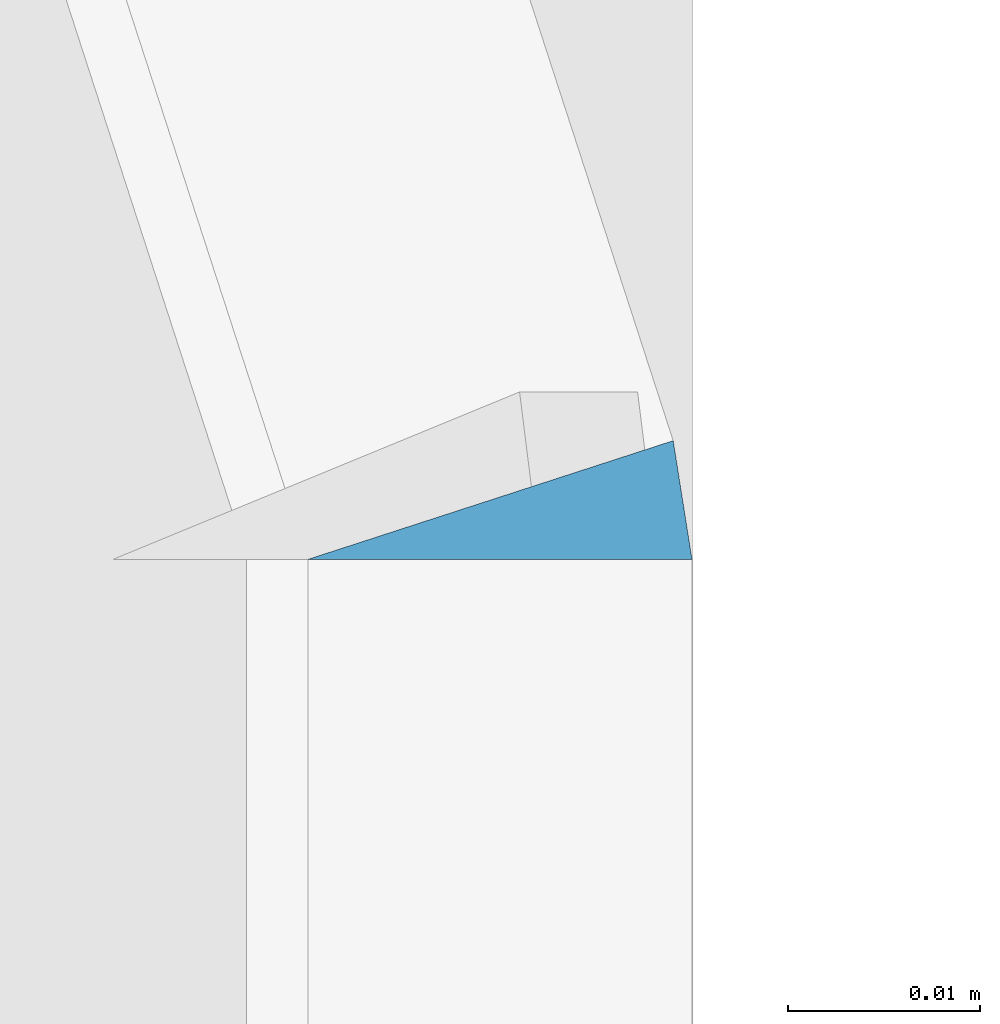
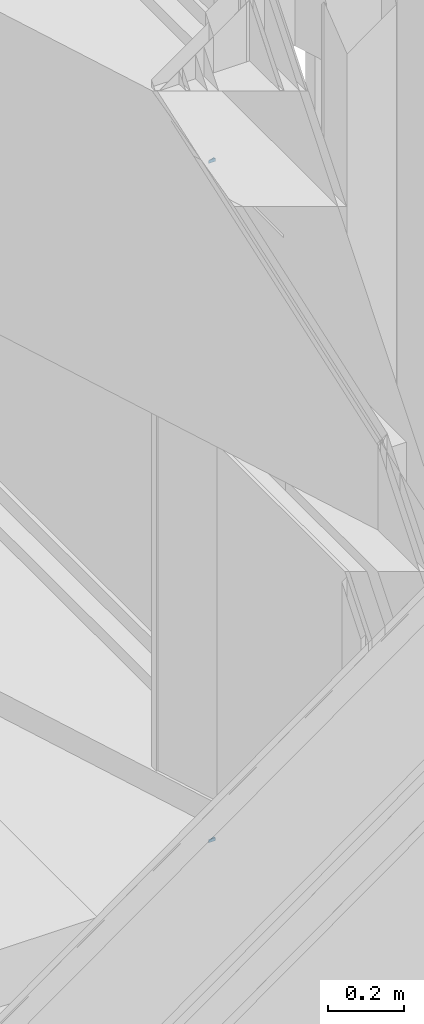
# One storey, part 363 of 583: 2 slabs.
"""IFC2X3 building model written with IfcOpenShell, lengths in metres."""

from ifc_helpers import new_model, entity, si_unit, converted_unit, derived_unit, money_unit, direction, frame, origin_with_axes, place, context, subcontext, project, spatial, faceted_brep, material, type_object, element, save


model = new_model("IFC2X3")

# Units and contexts
model_context = context("Model", 3, precision=1e-05, world=origin_with_axes(), true_north=direction((0.0, 1.0)))
body_context = subcontext(model_context, "Body", "Model", "MODEL_VIEW", scale=1.0)
ifc_project = project(units=[si_unit("LENGTHUNIT", "METRE"), si_unit("AREAUNIT", "SQUARE_METRE"), si_unit("VOLUMEUNIT", "CUBIC_METRE"), si_unit("ABSORBEDDOSEUNIT", "GRAY"), si_unit("AMOUNTOFSUBSTANCEUNIT", "MOLE"), si_unit("DOSEEQUIVALENTUNIT", "SIEVERT"), si_unit("ELECTRICCAPACITANCEUNIT", "FARAD"), si_unit("ELECTRICCHARGEUNIT", "COULOMB"), si_unit("ELECTRICCONDUCTANCEUNIT", "SIEMENS"), si_unit("ELECTRICCURRENTUNIT", "AMPERE"), si_unit("ELECTRICRESISTANCEUNIT", "OHM"), si_unit("ELECTRICVOLTAGEUNIT", "VOLT"), si_unit("ENERGYUNIT", "JOULE"), si_unit("FORCEUNIT", "NEWTON"), si_unit("FREQUENCYUNIT", "HERTZ"), si_unit("ILLUMINANCEUNIT", "LUX"), si_unit("INDUCTANCEUNIT", "HENRY"), si_unit("LUMINOUSFLUXUNIT", "LUMEN"), si_unit("LUMINOUSINTENSITYUNIT", "CANDELA"), si_unit("MAGNETICFLUXDENSITYUNIT", "TESLA"), si_unit("MAGNETICFLUXUNIT", "WEBER"), si_unit("MASSUNIT", "GRAM"), converted_unit("PLANEANGLEUNIT", "degree", entity("IfcReal", 0.0174532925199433), si_unit("PLANEANGLEUNIT", "RADIAN"), dimensions=[0, 0, 0, 0, 0, 0, 0]), si_unit("POWERUNIT", "WATT"), si_unit("PRESSUREUNIT", "PASCAL"), si_unit("RADIOACTIVITYUNIT", "BECQUEREL"), si_unit("SOLIDANGLEUNIT", "STERADIAN"), si_unit("THERMODYNAMICTEMPERATUREUNIT", "KELVIN"), si_unit("TIMEUNIT", "SECOND"), derived_unit("ACCELERATIONUNIT", [(si_unit("LENGTHUNIT", "METRE"), 1), (si_unit("TIMEUNIT", "SECOND"), -2)]), derived_unit("ANGULARVELOCITYUNIT", [(converted_unit("PLANEANGLEUNIT", "degree", entity("IfcReal", 0.0174532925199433), si_unit("PLANEANGLEUNIT", "RADIAN"), dimensions=[0, 0, 0, 0, 0, 0, 0]), 1), (si_unit("TIMEUNIT", "SECOND"), -1)]), derived_unit("CURVATUREUNIT", [(converted_unit("PLANEANGLEUNIT", "degree", entity("IfcReal", 0.0174532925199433), si_unit("PLANEANGLEUNIT", "RADIAN"), dimensions=[0, 0, 0, 0, 0, 0, 0]), 1), (si_unit("LENGTHUNIT", "METRE"), -1)]), derived_unit("DYNAMICVISCOSITYUNIT", [(si_unit("PRESSUREUNIT", "PASCAL"), 1), (si_unit("TIMEUNIT", "SECOND"), 1)]), derived_unit("HEATFLUXDENSITYUNIT", [(si_unit("POWERUNIT", "WATT"), 1), (si_unit("LENGTHUNIT", "METRE"), -2)]), derived_unit("HEATINGVALUEUNIT", [(si_unit("ENERGYUNIT", "JOULE"), 1), (si_unit("MASSUNIT", "GRAM"), -1)]), derived_unit("INTEGERCOUNTRATEUNIT", [(si_unit("TIMEUNIT", "SECOND"), -1)]), derived_unit("IONCONCENTRATIONUNIT", [(si_unit("MASSUNIT", "GRAM"), 1), (si_unit("VOLUMEUNIT", "CUBIC_METRE"), -1)]), derived_unit("ISOTHERMALMOISTURECAPACITYUNIT", [(si_unit("VOLUMEUNIT", "CUBIC_METRE"), 1), (si_unit("MASSUNIT", "GRAM"), -1)]), derived_unit("KINEMATICVISCOSITYUNIT", [(si_unit("AREAUNIT", "SQUARE_METRE"), 1), (si_unit("TIMEUNIT", "SECOND"), -1)]), derived_unit("LINEARFORCEUNIT", [(si_unit("FORCEUNIT", "NEWTON"), 1), (si_unit("LENGTHUNIT", "METRE"), -1)]), derived_unit("LINEARMOMENTUNIT", [(si_unit("FORCEUNIT", "NEWTON"), 1), (si_unit("LENGTHUNIT", "METRE"), -1)]), derived_unit("LINEARSTIFFNESSUNIT", [(si_unit("FORCEUNIT", "NEWTON"), 1), (si_unit("LENGTHUNIT", "METRE"), -1)]), derived_unit("LINEARVELOCITYUNIT", [(si_unit("LENGTHUNIT", "METRE"), 1), (si_unit("TIMEUNIT", "SECOND"), -1)]), derived_unit("LUMINOUSINTENSITYDISTRIBUTIONUNIT", [(si_unit("LUMINOUSINTENSITYUNIT", "CANDELA"), 1), (si_unit("LUMINOUSFLUXUNIT", "LUMEN"), -1)]), derived_unit("MASSDENSITYUNIT", [(si_unit("MASSUNIT", "GRAM"), 1), (si_unit("VOLUMEUNIT", "CUBIC_METRE"), -1)]), derived_unit("MASSFLOWRATEUNIT", [(si_unit("MASSUNIT", "GRAM"), 1), (si_unit("TIMEUNIT", "SECOND"), -1)]), derived_unit("MASSPERLENGTHUNIT", [(si_unit("MASSUNIT", "GRAM"), 1), (si_unit("LENGTHUNIT", "METRE"), -1)]), derived_unit("MODULUSOFELASTICITYUNIT", [(si_unit("FORCEUNIT", "NEWTON"), 1), (si_unit("AREAUNIT", "SQUARE_METRE"), -1)]), derived_unit("MODULUSOFLINEARSUBGRADEREACTIONUNIT", [(si_unit("FORCEUNIT", "NEWTON"), 1), (si_unit("LENGTHUNIT", "METRE"), -2)]), derived_unit("MODULUSOFROTATIONALSUBGRADEREACTIONUNIT", [(si_unit("FORCEUNIT", "NEWTON"), 1), (si_unit("LENGTHUNIT", "METRE"), 1)]), derived_unit("MODULUSOFSUBGRADEREACTIONUNIT", [(si_unit("FORCEUNIT", "NEWTON"), 1), (si_unit("VOLUMEUNIT", "CUBIC_METRE"), -1)]), derived_unit("MOISTUREDIFFUSIVITYUNIT", [(si_unit("VOLUMEUNIT", "CUBIC_METRE"), 1), (si_unit("TIMEUNIT", "SECOND"), -1)]), derived_unit("MOLECULARWEIGHTUNIT", [(si_unit("MASSUNIT", "GRAM"), 1), (si_unit("AMOUNTOFSUBSTANCEUNIT", "MOLE"), -1)]), derived_unit("PLANARFORCEUNIT", [(si_unit("FORCEUNIT", "NEWTON"), 1), (si_unit("LENGTHUNIT", "METRE"), -2)]), derived_unit("ROTATIONALFREQUENCYUNIT", [(si_unit("TIMEUNIT", "SECOND"), -1)]), derived_unit("ROTATIONALMASSUNIT", [(si_unit("MASSUNIT", "GRAM"), 1), (si_unit("LENGTHUNIT", "METRE"), 2)]), derived_unit("ROTATIONALSTIFFNESSUNIT", [(si_unit("FORCEUNIT", "NEWTON"), 1), (si_unit("LENGTHUNIT", "METRE"), 1), (converted_unit("PLANEANGLEUNIT", "degree", entity("IfcReal", 0.0174532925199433), si_unit("PLANEANGLEUNIT", "RADIAN"), dimensions=[0, 0, 0, 0, 0, 0, 0]), -1)]), derived_unit("SECTIONAREAINTEGRALUNIT", [(si_unit("LENGTHUNIT", "METRE"), 5)]), derived_unit("SECTIONMODULUSUNIT", [(si_unit("LENGTHUNIT", "METRE"), 3)]), derived_unit("SHEARMODULUSUNIT", [(si_unit("FORCEUNIT", "NEWTON"), 1), (si_unit("AREAUNIT", "SQUARE_METRE"), -1)]), derived_unit("SOUNDPOWERUNIT", [(si_unit("ENERGYUNIT", "JOULE"), 1), (si_unit("TIMEUNIT", "SECOND"), -1)]), derived_unit("SPECIFICHEATCAPACITYUNIT", [(si_unit("FORCEUNIT", "NEWTON"), 1), (si_unit("MASSUNIT", "GRAM"), -1), (si_unit("THERMODYNAMICTEMPERATUREUNIT", "KELVIN"), -1)]), derived_unit("TEMPERATUREGRADIENTUNIT", [(si_unit("THERMODYNAMICTEMPERATUREUNIT", "KELVIN"), 1), (si_unit("LENGTHUNIT", "METRE"), -1)]), derived_unit("THERMALADMITTANCEUNIT", [(si_unit("POWERUNIT", "WATT"), 1), (si_unit("AREAUNIT", "SQUARE_METRE"), -1), (si_unit("THERMODYNAMICTEMPERATUREUNIT", "KELVIN"), -1)]), derived_unit("THERMALCONDUCTANCEUNIT", [(si_unit("POWERUNIT", "WATT"), 1), (si_unit("LENGTHUNIT", "METRE"), -1), (si_unit("THERMODYNAMICTEMPERATUREUNIT", "KELVIN"), -1)]), derived_unit("THERMALEXPANSIONCOEFFICIENTUNIT", [(si_unit("THERMODYNAMICTEMPERATUREUNIT", "KELVIN"), -1)]), derived_unit("THERMALRESISTANCEUNIT", [(si_unit("AREAUNIT", "SQUARE_METRE"), 1), (si_unit("POWERUNIT", "WATT"), -1)]), derived_unit("THERMALTRANSMITTANCEUNIT", [(si_unit("POWERUNIT", "WATT"), 1), (si_unit("AREAUNIT", "SQUARE_METRE"), -1), (si_unit("THERMODYNAMICTEMPERATUREUNIT", "KELVIN"), -1)]), derived_unit("TORQUEUNIT", [(si_unit("FORCEUNIT", "NEWTON"), 1), (si_unit("LENGTHUNIT", "METRE"), 1)]), derived_unit("VAPORPERMEABILITYUNIT", [(si_unit("MASSUNIT", "GRAM"), 1), (si_unit("TIMEUNIT", "SECOND"), -1)]), derived_unit("VOLUMETRICFLOWRATEUNIT", [(si_unit("VOLUMEUNIT", "CUBIC_METRE"), 1), (si_unit("TIMEUNIT", "SECOND"), -1)]), derived_unit("WARPINGCONSTANTUNIT", [(si_unit("LENGTHUNIT", "METRE"), 6)]), derived_unit("WARPINGMOMENTUNIT", [(si_unit("FORCEUNIT", "NEWTON"), 1), (si_unit("LENGTHUNIT", "METRE"), 2)]), money_unit("GBP")], contexts=[model_context])

# Site, building, storey
site_placement = place(None, origin_with_axes())
site = spatial("IfcSite", under=ifc_project, at=site_placement, Name="Site", CompositionType="ELEMENT")
building_placement = place(site_placement, origin_with_axes())
building = spatial("IfcBuilding", under=site, at=building_placement, Name="Building01", CompositionType="ELEMENT")
storey_placement = place(building_placement, frame((0.0, 0.0, 20.78), z_axis=(0.0, 0.0, 1.0), x_axis=(1.0, 0.0, 0.0)))
storey = spatial("IfcBuildingStorey", under=building, at=storey_placement, Name="RL", CompositionType="ELEMENT", Elevation=20.78)

# Slabs
ifc_material = material(Name="A_BSUK_Roofs")
slab_type = type_object("IfcSlabType", Name="A-FloorsSlabs A_BSUK_Slabs", PredefinedType="FLOOR")
for number, where, z_axis, x_axis, name in (
    (1, (14.399021, 16.280608, -9.464976), (0.0, 1.0, 0.0), (0.0, 0.0, -1.0), "A-FloorsSlabs A_BSUK_Slabs"),
    (2, (14.399021, 16.280608, -11.654976), (0.0, 1.0, 0.0), (0.0, 0.0, -1.0), "A-FloorsSlabs A_BSUK_Slabs"),
):
    element("IfcSlab", number, at=place(storey_placement, frame(where, z_axis=z_axis, x_axis=x_axis)), inside=storey, type_object=slab_type, material=ifc_material, Name=name, ObjectType="A-FloorsSlabs A_BSUK_Slabs", context=body_context, shape_type="Brep", body=[
        faceted_brep([(0.0, -0.000979, -0.00618), (0.01, -0.000979, -0.00618), (0.01, 0.0, 0.0), (0.0, 0.0, 0.0), (0.0, 0.019021, -0.00618), (0.01, 0.019021, -0.00618)], [[[0, 1, 2, 3]], [[4, 5, 1, 0]], [[3, 2, 5, 4]], [[1, 5, 2]], [[3, 4, 0]]]),
    ])

save(model, "model.ifc")
